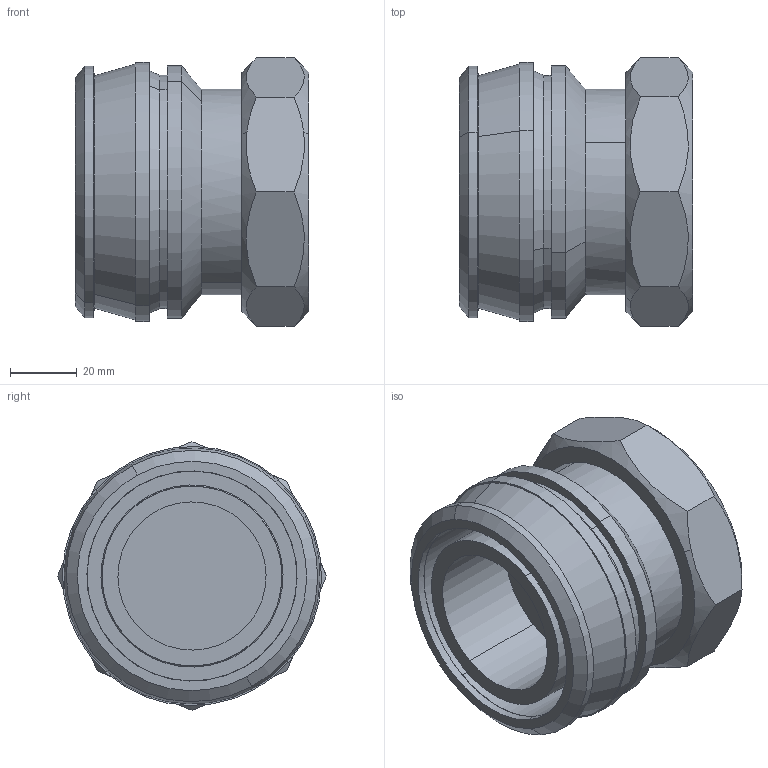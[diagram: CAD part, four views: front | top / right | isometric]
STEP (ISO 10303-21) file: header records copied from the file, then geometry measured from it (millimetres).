
FILE_DESCRIPTION(('STEP AP214'),'1');
FILE_NAME('pim0006818.stp','2015-06-18T13:20:15',('CAD-PIM'),('TransMagic, Inc.'),'TMR11sp0','TransMagic R11',' ');
FILE_SCHEMA(('AUTOMOTIVE_DESIGN'));
Length unit declared in the file: millimetre
Products named in the file (1): pim0006818
Bounding box: 70 x 80.64 x 80.64 mm (x, y, z)
Volume: 181587.8 mm3; surface area: 44221.7 mm2
Topology: 1 solids, 1 shells, 57 faces, 154 edges, 108 vertices
Faces by surface type: cylinder 20, plane 19, cone 10, bspline 8
Entity records: 2858 total; most frequent: CARTESIAN_POINT 928, ORIENTED_EDGE 308, DIRECTION 306, EDGE_CURVE 154, AXIS2_PLACEMENT_3D 130, VERTEX_POINT 108, CIRCLE 80, EDGE_LOOP 66
